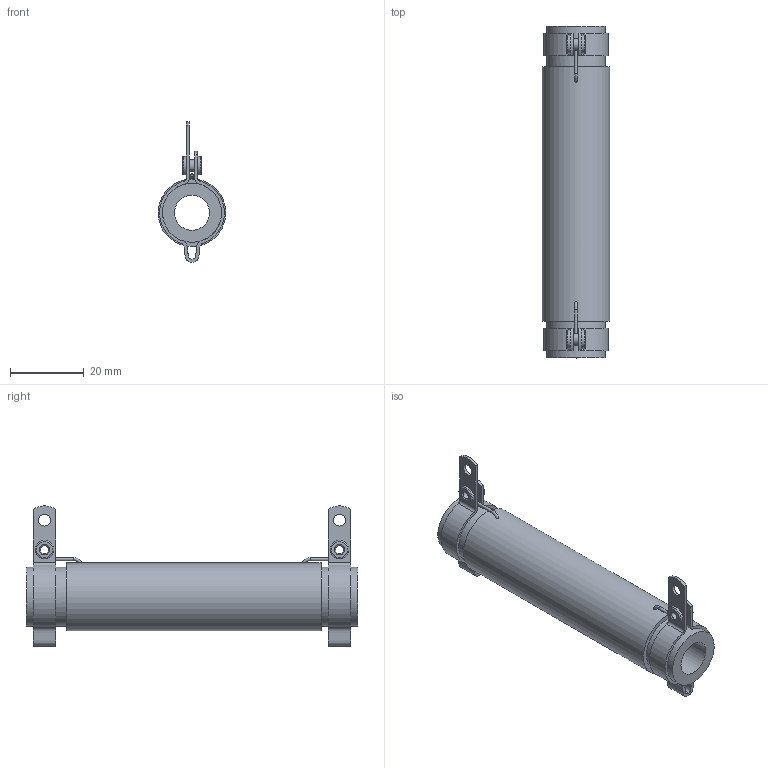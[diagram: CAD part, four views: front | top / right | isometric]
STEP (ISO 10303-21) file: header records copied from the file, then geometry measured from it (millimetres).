
FILE_DESCRIPTION(/* description */ (''),/* implementation_level */ '2;1');
FILE_NAME(/* name */ 'C:\_Vault\Dati\CATALOGO\RC-RS\TC\RS00050.stp',/* time_stamp */ '2014-01-22T17:33:27+01:00',/* author */ ('stefano'),/* organization */ (''),/* preprocessor_version */ 'ST-DEVELOPER v15.2',/* originating_system */ 'Autodesk Inventor 2014',/* authorisation */ '');
FILE_SCHEMA (('AUTOMOTIVE_DESIGN { 1 0 10303 214 3 1 1 }'));
Length unit declared in the file: millimetre
Products named in the file (1): RS00050
Bounding box: 18.35 x 90 x 38.08 mm (x, y, z)
Volume: 16915.5 mm3; surface area: 9574.5 mm2
Topology: 1 solids, 5 shells, 88 faces, 213 edges, 141 vertices
Faces by surface type: cylinder 38, plane 32, torus 10, bspline 8
Full cylindrical faces by diameter (mm): 0.4 x2, 0.8 x4, 2.2 x2, 3.2 x4, 5 x4, 9.5 x1, 16 x2, 18.35 x1
Entity records: 2977 total; most frequent: CARTESIAN_POINT 921, DIRECTION 398, ORIENTED_EDGE 340, AXIS2_PLACEMENT_3D 171, EDGE_CURVE 170, EDGE_LOOP 148, VERTEX_POINT 130, CIRCLE 90
